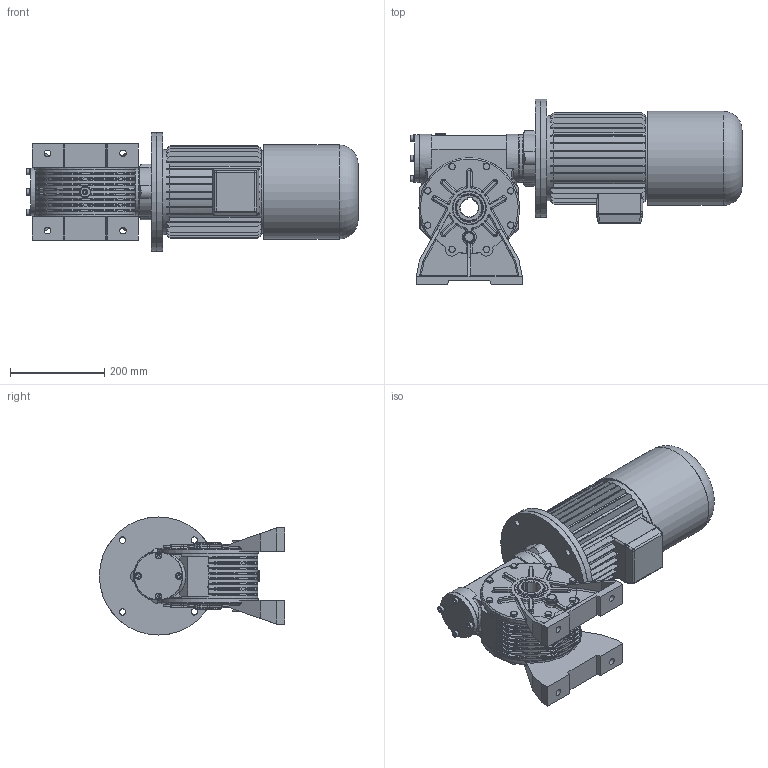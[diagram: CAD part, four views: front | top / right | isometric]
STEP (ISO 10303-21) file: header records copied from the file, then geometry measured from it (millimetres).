
FILE_DESCRIPTION((''),'2;1');
FILE_NAME('Y:\Archivi Inventor\Prog_01\GRAND_50\complessivi\Figurini\MRV50 sito\100l_autofrenante\mrv50_P2_100_B5.stp','2013-02-08T10:07:57',('tech3'),(''),'Autodesk Inventor 2013','Autodesk Inventor 2013','');
FILE_SCHEMA(('AUTOMOTIVE_DESIGN { 1 0 10303 214 1 1 1 1 }'));
Length unit declared in the file: millimetre
Products named in the file (18): mrv50_100_112b5; mrv50_fig; Figurino_carcassa_MRV50; 0105028; 0105029; figurino_corona_MRV50; figurino_0105010; Guarnizione 3_8 GAS; Tappo 3_8 GAS_esagn_incsst; Tappo3_8 GAS; figurino_0105009; ISO 4017 M8 x 20; 55_70_8; UNI 6592 8.4 x 14; UNI 5931  M 8 x  25; 0105006; DIN EN ISO 4762 M8 x 25; motori B5 brake 100
Assembly tree (50 placements, depth 3):
  mrv50_100_112b5
    mrv50_fig
      Figurino_carcassa_MRV50
      0105028  x2
      0105029  x2
      figurino_corona_MRV50
      figurino_0105010  x2
      Guarnizione 3_8 GAS  x4
      Tappo 3_8 GAS_esagn_incsst  x2
      Tappo3_8 GAS  x2
      figurino_0105009
      ISO 4017 M8 x 20  x16
      55_70_8  x2
      UNI 6592 8.4 x 14  x4
      UNI 5931  M 8 x  25  x4
    0105006
    DIN EN ISO 4762 M8 x 25  x4
    motori B5 brake 100
Bounding box: 702.8 x 392 x 250 mm (x, y, z)
Volume: 13292058.5 mm3; surface area: 1640819.6 mm2
Topology: 52 solids, 64 shells, 2270 faces, 5484 edges, 3261 vertices
Faces by surface type: plane 939, cylinder 674, cone 250, torus 175, bspline 162, sphere 70
Full cylindrical faces by diameter (mm): 2 x2, 5 x1, 6.647 x24, 8 x26, 8.4 x4, 8.5 x48, 11.63 x16, 13 x12, 13.046 x2, 13.5 x4, 14 x12, 14.95 x4, 16.3 x4, 16.5 x2, 22 x8, 24 x2, 28 x1, 55 x1, 60 x1, 66.4 x2, 69 x2, 70 x5, 72 x4, 73 x2, 75 x1, 99.5 x2, 100 x1, 101 x1, 102 x2, 174 x1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
Entity records: 54580 total; most frequent: CARTESIAN_POINT 17581, DIRECTION 7681, ORIENTED_EDGE 7184, EDGE_CURVE 3592, AXIS2_PLACEMENT_3D 3009, VERTEX_POINT 2313, EDGE_LOOP 1947, VECTOR 1663
